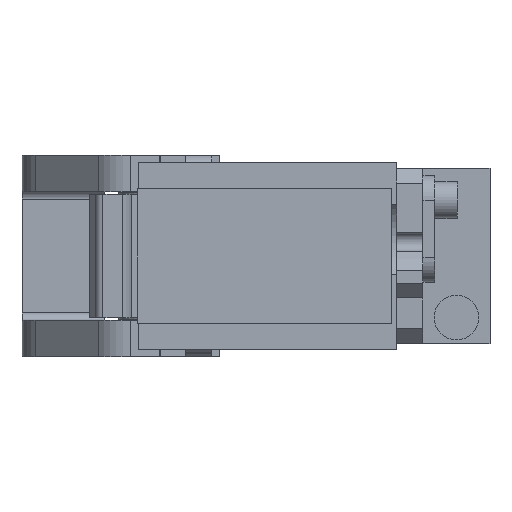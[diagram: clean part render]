
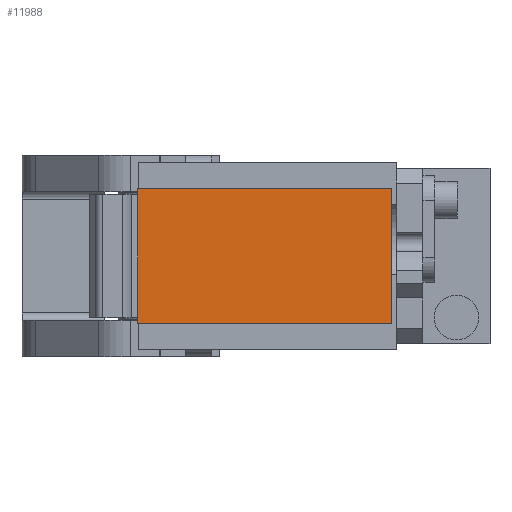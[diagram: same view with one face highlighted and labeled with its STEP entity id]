
A CAD part, front view. The second image highlights one B-rep face of the part: STEP entity #11988.
In plain terms, the highlighted planar face has unit normal (0, -1, 0).
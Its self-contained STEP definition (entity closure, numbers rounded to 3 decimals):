
#382 = VERTEX_POINT ( 'NONE', #12703 ) ;
#914 = EDGE_CURVE ( 'NONE', #382, #8931, #3215, .T. ) ;
#1487 = CARTESIAN_POINT ( 'NONE',  ( -6., -233., -18. ) ) ;
#1550 = EDGE_CURVE ( 'NONE', #9786, #382, #4620, .T. ) ;
#2709 = DIRECTION ( 'NONE',  ( 1., 0., 0. ) ) ;
#2742 = CARTESIAN_POINT ( 'NONE',  ( -6., -233., 18. ) ) ;
#2842 = VERTEX_POINT ( 'NONE', #5293 ) ;
#3200 = DIRECTION ( 'NONE',  ( 0., 0., 1. ) ) ;
#3215 = LINE ( 'NONE', #8077, #4473 ) ;
#3537 = VECTOR ( 'NONE', #3200, 1000. ) ;
#3937 = DIRECTION ( 'NONE',  ( 0., 0., -1. ) ) ;
#4015 = LINE ( 'NONE', #7277, #8546 ) ;
#4473 = VECTOR ( 'NONE', #12894, 1000. ) ;
#4620 = LINE ( 'NONE', #11446, #3537 ) ;
#4635 = ORIENTED_EDGE ( 'NONE', *, *, #10600, .T. ) ;
#5293 = CARTESIAN_POINT ( 'NONE',  ( -6., -233., -18. ) ) ;
#6113 = DIRECTION ( 'NONE',  ( 0., 0., -1. ) ) ;
#7277 = CARTESIAN_POINT ( 'NONE',  ( -6., -233., 18. ) ) ;
#7312 = ORIENTED_EDGE ( 'NONE', *, *, #914, .T. ) ;
#7488 = DIRECTION ( 'NONE',  ( 0., -1., 0. ) ) ;
#8077 = CARTESIAN_POINT ( 'NONE',  ( -6., -233., 18. ) ) ;
#8512 = ORIENTED_EDGE ( 'NONE', *, *, #1550, .T. ) ;
#8546 = VECTOR ( 'NONE', #6113, 1000. ) ;
#8931 = VERTEX_POINT ( 'NONE', #2742 ) ;
#9729 = AXIS2_PLACEMENT_3D ( 'NONE', #14446, #7488, #3937 ) ;
#9786 = VERTEX_POINT ( 'NONE', #11482 ) ;
#10600 = EDGE_CURVE ( 'NONE', #2842, #9786, #12171, .T. ) ;
#11446 = CARTESIAN_POINT ( 'NONE',  ( 62., -233., 18. ) ) ;
#11482 = CARTESIAN_POINT ( 'NONE',  ( 62., -233., -18. ) ) ;
#11988 = ADVANCED_FACE ( 'NONE', ( #13147 ), #13219, .T. ) ;
#12047 = VECTOR ( 'NONE', #2709, 1000. ) ;
#12171 = LINE ( 'NONE', #1487, #12047 ) ;
#12370 = EDGE_LOOP ( 'NONE', ( #13345, #4635, #8512, #7312 ) ) ;
#12703 = CARTESIAN_POINT ( 'NONE',  ( 62., -233., 18. ) ) ;
#12894 = DIRECTION ( 'NONE',  ( -1., 0., 0. ) ) ;
#13137 = EDGE_CURVE ( 'NONE', #8931, #2842, #4015, .T. ) ;
#13147 = FACE_OUTER_BOUND ( 'NONE', #12370, .T. ) ;
#13219 = PLANE ( 'NONE',  #9729 ) ;
#13345 = ORIENTED_EDGE ( 'NONE', *, *, #13137, .T. ) ;
#14446 = CARTESIAN_POINT ( 'NONE',  ( 0., -233., 0. ) ) ;
